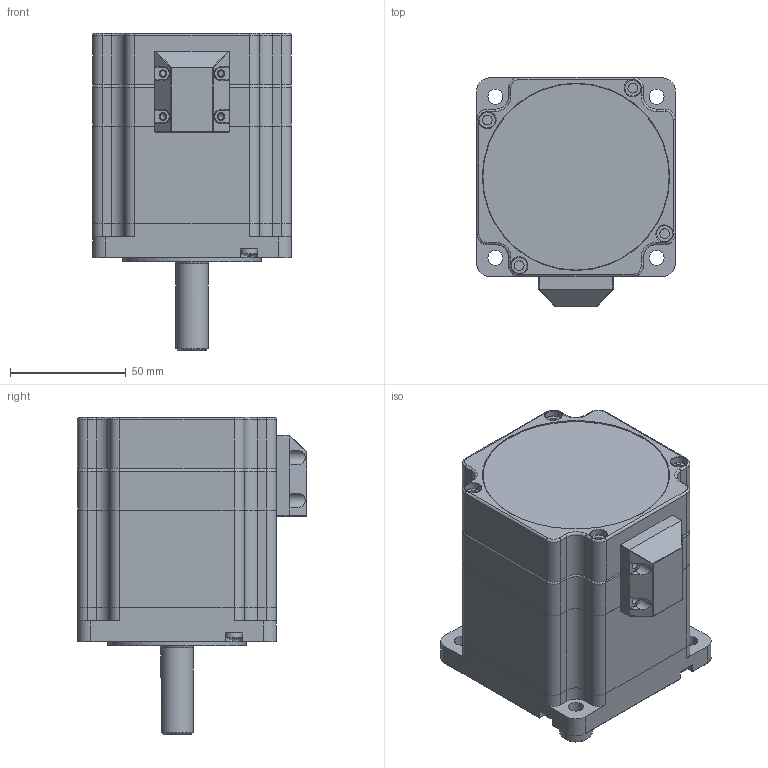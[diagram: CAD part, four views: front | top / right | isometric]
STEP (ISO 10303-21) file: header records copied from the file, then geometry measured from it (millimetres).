
FILE_DESCRIPTION (( 'STEP AP203' ), '1' );
FILE_NAME ('YK286EC80A1.STEP', '2018-11-01T09:32:23', ( '' ), ( '' ), 'SwSTEP 2.0', 'SolidWorks 2014', '' );
FILE_SCHEMA (( 'CONFIG_CONTROL_DESIGN' ));
Length unit declared in the file: millimetre
Products named in the file (18): 286萇儂萇擢揤啣; 敕遠M4.0蹟佪; YK286ECXXA1ヶ裔; YK286萇儂晤鎢ん欶; YK286ECXXA1隅赽; YK286EC80A1; YK286ECXXA1綴裔; YK286ECXXA1粣郋
Assembly tree (10 placements, depth 2):
  286萇儂萇擢揤啣
  敕遠M4.0蹟佪
  YK286ECXXA1ヶ裔
  YK286ECXXA1隅赽
  敕遠M4.0蹟佪
Bounding box: 85.85 x 99 x 137 mm (x, y, z)
Volume: 444877.3 mm3; surface area: 114471.9 mm2
Topology: 10 solids, 10 shells, 615 faces, 1476 edges, 897 vertices
Faces by surface type: plane 291, cylinder 226, torus 55, bspline 24, cone 15, sphere 4
Full cylindrical faces by diameter (mm): 2.5 x4, 3.3 x12, 4 x4, 4.2 x4, 4.5 x4, 6 x4, 6.5 x4, 7.2 x8, 14 x1, 15 x1, 16 x2, 35 x2, 55.96 x1, 60 x1, 80.5 x1
Entity records: 17612 total; most frequent: CARTESIAN_POINT 3683, DIRECTION 2618, ORIENTED_EDGE 2454, EDGE_CURVE 1227, AXIS2_PLACEMENT_3D 979, VERTEX_POINT 796, EDGE_LOOP 663, LINE 660
